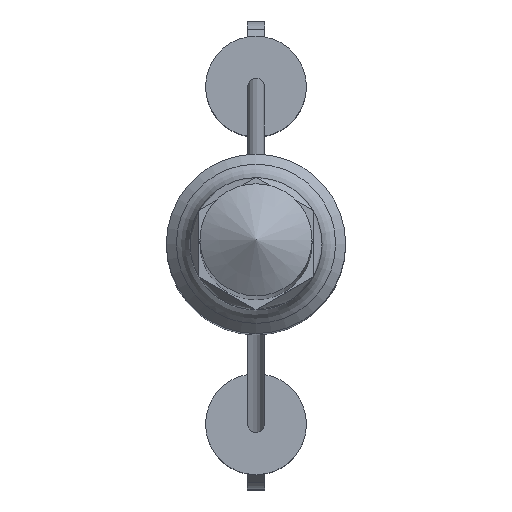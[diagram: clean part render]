
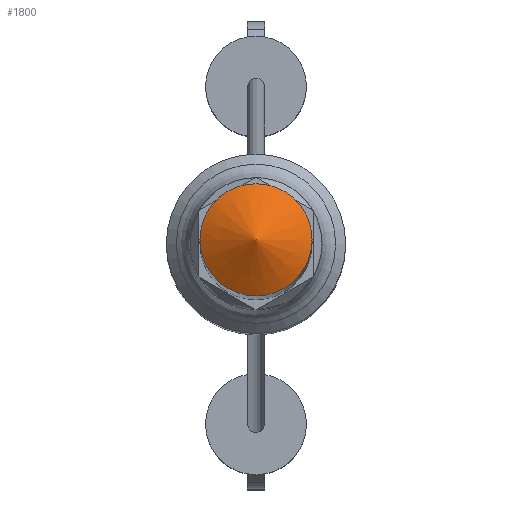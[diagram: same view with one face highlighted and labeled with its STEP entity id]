
A CAD part, top view. The second image highlights one B-rep face of the part: STEP entity #1800.
In plain terms, the highlighted conical face has half-angle 60 degrees and reference radius 2.5 mm.
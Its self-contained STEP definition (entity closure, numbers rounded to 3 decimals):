
#31 = AXIS2_PLACEMENT_3D ( 'NONE', #629, #1283, #467 ) ;
#91 = CARTESIAN_POINT ( 'NONE',  ( 0., 0., 98.557 ) ) ;
#161 = CONICAL_SURFACE ( 'NONE', #31, 2.5, 1.047 ) ;
#173 = VERTEX_POINT ( 'NONE', #334 ) ;
#287 = CIRCLE ( 'NONE', #1251, 2.5 ) ;
#334 = CARTESIAN_POINT ( 'NONE',  ( 2.5, 0., 98.557 ) ) ;
#467 = DIRECTION ( 'NONE',  ( -1., 0., 0. ) ) ;
#488 = EDGE_LOOP ( 'NONE', ( #1020 ) ) ;
#513 = EDGE_CURVE ( 'NONE', #173, #173, #287, .T. ) ;
#572 = DIRECTION ( 'NONE',  ( 0., 0., 1. ) ) ;
#629 = CARTESIAN_POINT ( 'NONE',  ( 0., 0., 98.557 ) ) ;
#749 = DIRECTION ( 'NONE',  ( 1., 0., 0. ) ) ;
#773 = FACE_OUTER_BOUND ( 'NONE', #488, .T. ) ;
#1020 = ORIENTED_EDGE ( 'NONE', *, *, #513, .T. ) ;
#1251 = AXIS2_PLACEMENT_3D ( 'NONE', #91, #572, #749 ) ;
#1283 = DIRECTION ( 'NONE',  ( 0., 0., -1. ) ) ;
#1800 = ADVANCED_FACE ( 'NONE', ( #773 ), #161, .T. ) ;
